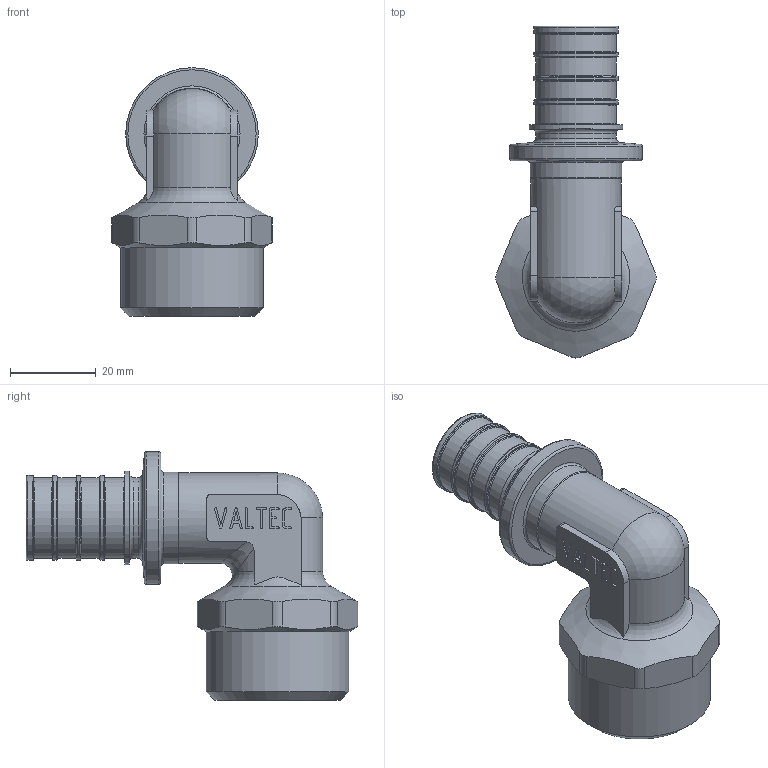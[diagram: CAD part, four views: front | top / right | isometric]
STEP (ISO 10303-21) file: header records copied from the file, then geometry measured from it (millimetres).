
FILE_DESCRIPTION(('STEP AP203'), '1');
FILE_NAME('ﾂﾐ.752212.009 - VTm.453.G.002506 ﾔ頸. 90 胙. 浯葢', '2024-01-24T06:51:36', ('IT'), ('VESTA'), 'C3D Converter', 'C3D Toolkit', '');
FILE_SCHEMA(('CONFIG_CONTROL_DESIGN'));
Length unit declared in the file: millimetre
Products named in the file (1): ВР.752212.009
Bounding box: 37.39 x 77.29 x 57.95 mm (x, y, z)
Volume: 23846.4 mm3; surface area: 15377.7 mm2
Topology: 1 solids, 1 shells, 339 faces, 906 edges, 591 vertices
Faces by surface type: extrusion 142, plane 126, cylinder 36, torus 22, cone 8, bspline 3, sphere 2
Full cylindrical faces by diameter (mm): 15 x2, 18.8 x5, 19.8 x4, 21 x1, 21.4 x1, 21.8 x1, 25.5 x1, 30.9 x1, 33.249 x1
Entity records: 12524 total; most frequent: CARTESIAN_POINT 4865, ORIENTED_EDGE 1716, DIRECTION 1116, EDGE_CURVE 858, VERTEX_POINT 591, VECTOR 574, B_SPLINE_CURVE_WITH_KNOTS 490, LINE 432
